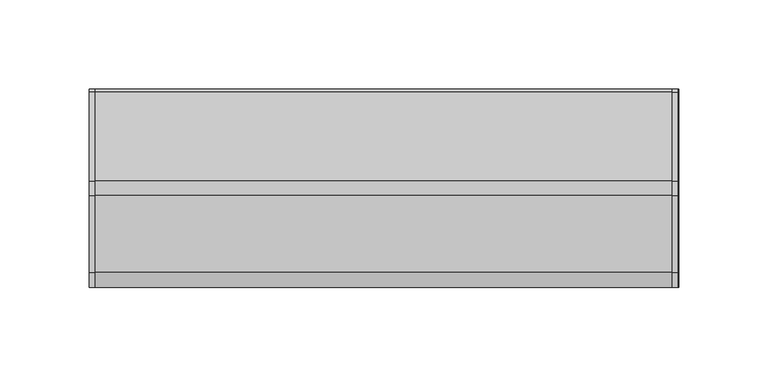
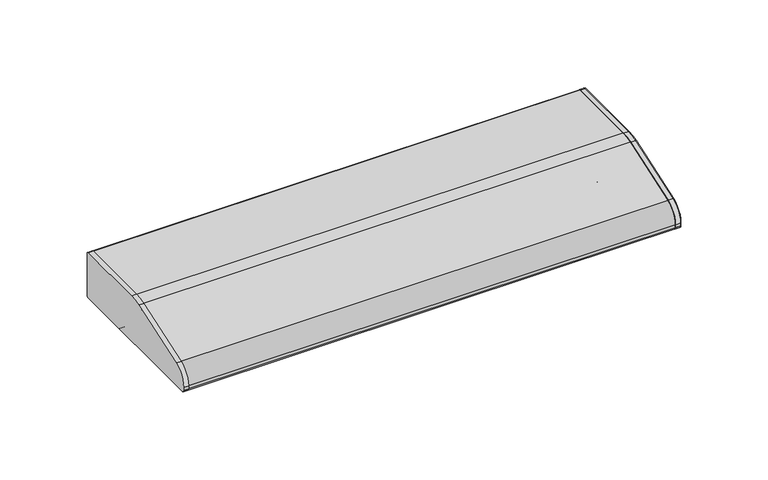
"""IFC4 building model written with IfcOpenShell, lengths in millimetres: light fixture geometry, HermanMiller_SupplementalProducts_G6136_UtilityTaskLight : AO Etho Canvas 24W."""

from ifc_helpers import new_model, si_unit, point, frame, frame_2d, origin, place, context, project, spatial, polyline, circle_curve, trimmed, segment, composite_curve, outline, extrude, source, transform, mapped, element, save


def light_fixture_ffa00119(model_context):
    return source(origin(), model_context, "Body", "SweptSolid", [
        extrude(outline(composite_curve([segment(polyline([(53.975, 1321.46802), (-53.975, 1321.46802)]), True, "CONTINUOUS"), segment(trimmed(circle_curve(frame_2d((-53.975, 1323.05552)), 1.5875), [point((-53.975, 1321.46802))], [point((-55.5625, 1323.05552))], False, "CARTESIAN"), True, "CONTINUOUS"), segment(polyline([(-55.5625, 1323.05552), (-55.5625, 1325.0965914)]), True, "CONTINUOUS"), segment(trimmed(circle_curve(frame_2d((-42.8625, 1325.0965914)), 12.7), [point((-55.5625, 1325.0965914))], [point((-46.9814189, 1337.1101049))], False, "CARTESIAN"), True, "CONTINUOUS"), segment(polyline([(-46.9814189, 1337.1101049), (-4.0045045, 1351.845047)]), True, "CONTINUOUS"), segment(trimmed(circle_curve(frame_2d((4.2333333, 1327.81802)), 25.4), [point((-4.0045045, 1351.845047))], [point((4.2333333, 1353.21802))], False, "CARTESIAN"), True, "CONTINUOUS"), segment(polyline([(4.2333333, 1353.21802), (53.975, 1353.21802)]), True, "CONTINUOUS"), segment(trimmed(circle_curve(frame_2d((53.975, 1351.63052)), 1.5875), [point((53.975, 1353.21802))], [point((55.5625, 1351.63052))], False, "CARTESIAN"), True, "CONTINUOUS"), segment(polyline([(55.5625, 1351.63052), (55.5625, 1323.05552)]), True, "CONTINUOUS"), segment(trimmed(circle_curve(frame_2d((53.975, 1323.05552)), 1.5875), [point((55.5625, 1323.05552))], [point((53.975, 1321.46802))], False, "CARTESIAN"), True, "CONTINUOUS")], self_intersect=False)), frame((161.544, 0.0, 0.0), z_axis=(1.0, 0.0, 0.0), x_axis=(0.0, 1.0, 0.0)), (0.0, 0.0, 1.0), 3.175),
        extrude(outline(composite_curve([segment(trimmed(circle_curve(frame_2d((53.975, 1351.63052)), 1.5875), [point((53.975, 1353.21802))], [point((55.5625, 1351.63052))], False, "CARTESIAN"), True, "CONTINUOUS"), segment(polyline([(55.5625, 1351.63052), (55.5625, 1323.05552)]), True, "CONTINUOUS"), segment(trimmed(circle_curve(frame_2d((53.975, 1323.05552)), 1.5875), [point((55.5625, 1323.05552))], [point((53.975, 1321.46802))], False, "CARTESIAN"), True, "CONTINUOUS"), segment(polyline([(53.975, 1321.46802), (-53.975, 1321.46802)]), True, "CONTINUOUS"), segment(trimmed(circle_curve(frame_2d((-53.975, 1323.05552)), 1.5875), [point((-53.975, 1321.46802))], [point((-55.5625, 1323.05552))], False, "CARTESIAN"), True, "CONTINUOUS"), segment(polyline([(-55.5625, 1323.05552), (-55.5625, 1325.0965914)]), True, "CONTINUOUS"), segment(trimmed(circle_curve(frame_2d((-42.8625, 1325.0965914)), 12.7), [point((-55.5625, 1325.0965914))], [point((-46.9814189, 1337.1101049))], False, "CARTESIAN"), True, "CONTINUOUS"), segment(polyline([(-46.9814189, 1337.1101049), (-4.0045045, 1351.845047)]), True, "CONTINUOUS"), segment(trimmed(circle_curve(frame_2d((4.2333333, 1327.81802)), 25.4), [point((-4.0045045, 1351.845047))], [point((4.2333333, 1353.21802))], False, "CARTESIAN"), True, "CONTINUOUS"), segment(polyline([(4.2333333, 1353.21802), (53.975, 1353.21802)]), True, "CONTINUOUS")], self_intersect=False)), frame((-164.719, 0.0, 0.0), z_axis=(1.0, 0.0, 0.0), x_axis=(0.0, 1.0, 0.0)), (0.0, 0.0, 1.0), 3.175),
        extrude(outline(composite_curve([segment(polyline([(55.5625, 1351.63052), (55.5625, 1323.05552)]), True, "CONTINUOUS"), segment(trimmed(circle_curve(frame_2d((53.975, 1323.05552)), 1.5875), [point((55.5625, 1323.05552))], [point((53.975, 1321.46802))], False, "CARTESIAN"), True, "CONTINUOUS"), segment(polyline([(53.975, 1321.46802), (19.05, 1321.46802)]), True, "CONTINUOUS"), segment(trimmed(circle_curve(frame_2d((19.05, 1323.05552)), 1.5875), [point((19.05, 1321.46802))], [point((17.4625, 1323.05552))], False, "CARTESIAN"), True, "CONTINUOUS"), segment(polyline([(17.4625, 1323.05552), (17.4625, 1351.63052), (4.4979167, 1351.63052)]), True, "CONTINUOUS"), segment(trimmed(circle_curve(frame_2d((4.4979167, 1326.23052)), 25.4), [point((4.4979167, 1351.63052))], [point((-3.7399212, 1350.257547))], True, "CARTESIAN"), True, "CONTINUOUS"), segment(polyline([(-3.7399212, 1350.257547), (-37.4564189, 1338.6976049)]), True, "CONTINUOUS"), segment(trimmed(circle_curve(frame_2d((-33.3375, 1326.6840914)), 12.7), [point((-37.4564189, 1338.6976049))], [point((-46.0375, 1326.6840914))], True, "CARTESIAN"), True, "CONTINUOUS"), segment(polyline([(-46.0375, 1326.6840914), (-46.0375, 1323.05552)]), True, "CONTINUOUS"), segment(trimmed(circle_curve(frame_2d((-47.625, 1323.05552)), 1.5875), [point((-46.0375, 1323.05552))], [point((-47.625, 1321.46802))], False, "CARTESIAN"), True, "CONTINUOUS"), segment(polyline([(-47.625, 1321.46802), (-53.975, 1321.46802)]), True, "CONTINUOUS"), segment(trimmed(circle_curve(frame_2d((-53.975, 1323.05552)), 1.5875), [point((-53.975, 1321.46802))], [point((-55.5625, 1323.05552))], False, "CARTESIAN"), True, "CONTINUOUS"), segment(polyline([(-55.5625, 1323.05552), (-55.5625, 1325.0965914)]), True, "CONTINUOUS"), segment(trimmed(circle_curve(frame_2d((-42.8625, 1325.0965914)), 12.7), [point((-55.5625, 1325.0965914))], [point((-46.9814189, 1337.1101049))], False, "CARTESIAN"), True, "CONTINUOUS"), segment(polyline([(-46.9814189, 1337.1101049), (-4.0045045, 1351.845047)]), True, "CONTINUOUS"), segment(trimmed(circle_curve(frame_2d((4.2333333, 1327.81802)), 25.4), [point((-4.0045045, 1351.845047))], [point((4.2333333, 1353.21802))], False, "CARTESIAN"), True, "CONTINUOUS"), segment(polyline([(4.2333333, 1353.21802), (53.975, 1353.21802)]), True, "CONTINUOUS"), segment(trimmed(circle_curve(frame_2d((53.975, 1351.63052)), 1.5875), [point((53.975, 1353.21802))], [point((55.5625, 1351.63052))], False, "CARTESIAN"), True, "CONTINUOUS")], self_intersect=False)), frame((-164.719, 0.0, 0.0), z_axis=(1.0, 0.0, 0.0), x_axis=(0.0, 1.0, 0.0)), (0.0, 0.0, 1.0), 329.9040011),
        extrude(outline(composite_curve([segment(trimmed(circle_curve(frame_2d((1.5875, 1338.93052)), 9.525), [point((-7.9375, 1338.93052))], [point((11.1125, 1338.93052))], False, "CARTESIAN"), True, "CONTINUOUS"), segment(trimmed(circle_curve(frame_2d((1.5875, 1338.93052)), 9.525), [point((11.1125, 1338.93052))], [point((-7.9375, 1338.93052))], False, "CARTESIAN"), True, "CONTINUOUS")], self_intersect=False)), frame((139.319, 0.0, 0.0), z_axis=(1.0, 0.0, 0.0), x_axis=(0.0, 1.0, 0.0)), (0.0, 0.0, 1.0), 12.7),
        extrude(outline(composite_curve([segment(trimmed(circle_curve(frame_2d((1.5875, 1338.93052)), 9.525), [point((-7.9375, 1338.93052))], [point((11.1125, 1338.93052))], False, "CARTESIAN"), True, "CONTINUOUS"), segment(trimmed(circle_curve(frame_2d((1.5875, 1338.93052)), 9.525), [point((11.1125, 1338.93052))], [point((-7.9375, 1338.93052))], False, "CARTESIAN"), True, "CONTINUOUS")], self_intersect=False)), frame((-152.019, 0.0, 0.0), z_axis=(1.0, 0.0, 0.0), x_axis=(0.0, 1.0, 0.0)), (0.0, 0.0, 1.0), 12.7),
        extrude(outline(composite_curve([segment(trimmed(circle_curve(frame_2d((1.5875, 1338.93052)), 9.525), [point((-7.9375, 1338.93052))], [point((11.1125, 1338.93052))], False, "CARTESIAN"), True, "CONTINUOUS"), segment(trimmed(circle_curve(frame_2d((1.5875, 1338.93052)), 9.525), [point((11.1125, 1338.93052))], [point((-7.9375, 1338.93052))], False, "CARTESIAN"), True, "CONTINUOUS")], self_intersect=False)), frame((-139.319, 0.0, 0.0), z_axis=(1.0, 0.0, 0.0), x_axis=(0.0, 1.0, 0.0)), (0.0, 0.0, 1.0), 278.638),
        extrude(outline(composite_curve([segment(polyline([(17.4625, 1324.64302), (-46.0375, 1324.64302), (-46.0375, 1326.6840914)]), True, "CONTINUOUS"), segment(trimmed(circle_curve(frame_2d((-33.3375, 1326.6840914)), 12.7), [point((-46.0375, 1326.6840914))], [point((-37.4564189, 1338.6976049))], False, "CARTESIAN"), True, "CONTINUOUS"), segment(polyline([(-37.4564189, 1338.6976049), (-3.7399212, 1350.257547)]), True, "CONTINUOUS"), segment(trimmed(circle_curve(frame_2d((4.4979167, 1326.23052)), 25.4), [point((-3.7399212, 1350.257547))], [point((4.4979167, 1351.63052))], False, "CARTESIAN"), True, "CONTINUOUS"), segment(polyline([(4.4979167, 1351.63052), (17.4625, 1351.63052), (17.4625, 1324.64302)]), True, "CONTINUOUS")], self_intersect=False)), frame((152.019, 0.0, 0.0), z_axis=(1.0, 0.0, 0.0), x_axis=(0.0, 1.0, 0.0)), (0.0, 0.0, 1.0), 9.525),
        extrude(outline(composite_curve([segment(polyline([(17.4625, 1324.64302), (-46.0375, 1324.64302), (-46.0375, 1326.6840914)]), True, "CONTINUOUS"), segment(trimmed(circle_curve(frame_2d((-33.3375, 1326.6840914)), 12.7), [point((-46.0375, 1326.6840914))], [point((-37.4564189, 1338.6976049))], False, "CARTESIAN"), True, "CONTINUOUS"), segment(polyline([(-37.4564189, 1338.6976049), (-3.7399212, 1350.257547)]), True, "CONTINUOUS"), segment(trimmed(circle_curve(frame_2d((4.4979167, 1326.23052)), 25.4), [point((-3.7399212, 1350.257547))], [point((4.4979167, 1351.63052))], False, "CARTESIAN"), True, "CONTINUOUS"), segment(polyline([(4.4979167, 1351.63052), (17.4625, 1351.63052), (17.4625, 1324.64302)]), True, "CONTINUOUS")], self_intersect=False)), frame((-161.544, 0.0, 0.0), z_axis=(1.0, 0.0, 0.0), x_axis=(0.0, 1.0, 0.0)), (0.0, 0.0, 1.0), 9.525),
    ])


if __name__ == "__main__":
    model = new_model("IFC4")
    model_context = context("Model", 3, world=origin())
    ifc_project = project(units=[si_unit("LENGTHUNIT", "METRE", prefix="MILLI")], contexts=[model_context])
    site = spatial("IfcSite", under=ifc_project)
    building = spatial("IfcBuilding", under=site)
    placement = place(None, origin())
    light_fixture_shape = light_fixture_ffa00119(model_context)
    element("IfcLightFixture", 1, ObjectType="HermanMiller_SupplementalProducts_G6136_UtilityTaskLight : AO Etho Canvas 24W", at=placement, inside=building, context=model_context, shape_type="MappedRepresentation", body=[
        mapped(light_fixture_shape, transform((0.0, 0.0, 0.0), x_axis=(1.0, 0.0, 0.0), y_axis=(0.0, 1.0, 0.0), z_axis=(0.0, 0.0, 1.0))),
    ])
    save(model, "model.ifc")
